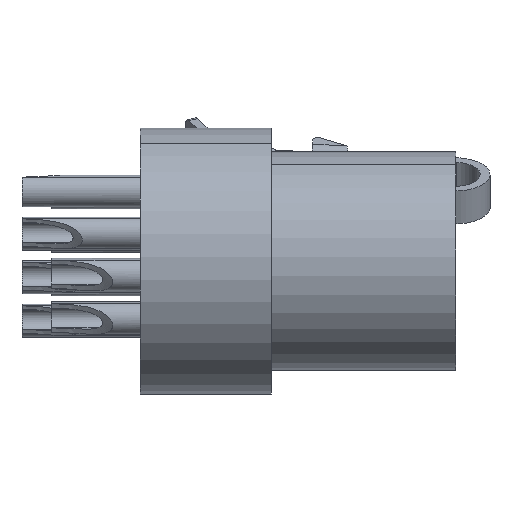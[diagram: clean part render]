
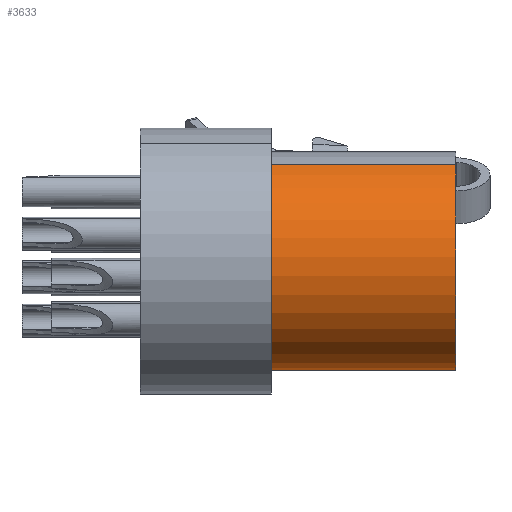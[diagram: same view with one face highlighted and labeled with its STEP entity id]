
A CAD part, front view. The second image highlights one B-rep face of the part: STEP entity #3633.
In plain terms, the highlighted cylindrical face has radius 2.819 mm (diameter 5.639 mm), a partial arc.
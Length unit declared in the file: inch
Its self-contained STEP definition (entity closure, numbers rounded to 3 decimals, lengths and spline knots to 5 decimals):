
#5 = VECTOR ( 'NONE', #3085, 39.37008 ) ;
#10 = LINE ( 'NONE', #3083, #5 ) ;
#2290 = VERTEX_POINT ( 'NONE', #7347 ) ;
#2291 = VERTEX_POINT ( 'NONE', #7340 ) ;
#2292 = VERTEX_POINT ( 'NONE', #7348 ) ;
#2297 = VERTEX_POINT ( 'NONE', #7336 ) ;
#3075 = CARTESIAN_POINT ( 'NONE',  ( 0.32, 0., -0.135 ) ) ;
#3076 = DIRECTION ( 'NONE',  ( 1., 0., 0. ) ) ;
#3077 = DIRECTION ( 'NONE',  ( 0., 0.469, -0.883 ) ) ;
#3083 = CARTESIAN_POINT ( 'NONE',  ( 0.133, 0.05211, -0.23301 ) ) ;
#3085 = DIRECTION ( 'NONE',  ( 1., 0., 0. ) ) ;
#3089 = CARTESIAN_POINT ( 'NONE',  ( 0.133, 0., -0.135 ) ) ;
#3090 = DIRECTION ( 'NONE',  ( 1., 0., 0. ) ) ;
#3091 = DIRECTION ( 'NONE',  ( 0., 0.469, -0.883 ) ) ;
#3101 = CARTESIAN_POINT ( 'NONE',  ( 0.133, -0.05211, -0.03699 ) ) ;
#3106 = DIRECTION ( 'NONE',  ( 1., 0., 0. ) ) ;
#3633 = ADVANCED_FACE ( 'NONE', ( #7771 ), #7891, .T. ) ;
#4159 = ORIENTED_EDGE ( 'NONE', *, *, #6491, .T. ) ;
#4227 = ORIENTED_EDGE ( 'NONE', *, *, #6498, .F. ) ;
#4270 = ORIENTED_EDGE ( 'NONE', *, *, #6489, .T. ) ;
#4459 = EDGE_LOOP ( 'NONE', ( #4227, #4159, #4270, #4518 ) ) ;
#4518 = ORIENTED_EDGE ( 'NONE', *, *, #6484, .F. ) ;
#6281 = AXIS2_PLACEMENT_3D ( 'NONE', #7280, #7615, #7513 ) ;
#6484 = EDGE_CURVE ( 'NONE', #2291, #2297, #8588, .T. ) ;
#6489 = EDGE_CURVE ( 'NONE', #2292, #2297, #10, .T. ) ;
#6491 = EDGE_CURVE ( 'NONE', #2290, #2292, #8593, .T. ) ;
#6498 = EDGE_CURVE ( 'NONE', #2290, #2291, #8607, .T. ) ;
#6993 = AXIS2_PLACEMENT_3D ( 'NONE', #3075, #3076, #3077 ) ;
#6994 = AXIS2_PLACEMENT_3D ( 'NONE', #3089, #3090, #3091 ) ;
#7280 = CARTESIAN_POINT ( 'NONE',  ( 0.133, 0., -0.135 ) ) ;
#7336 = CARTESIAN_POINT ( 'NONE',  ( 0.32, 0.05211, -0.23301 ) ) ;
#7340 = CARTESIAN_POINT ( 'NONE',  ( 0.32, -0.05211, -0.03699 ) ) ;
#7347 = CARTESIAN_POINT ( 'NONE',  ( 0.133, -0.05211, -0.03699 ) ) ;
#7348 = CARTESIAN_POINT ( 'NONE',  ( 0.133, 0.05211, -0.23301 ) ) ;
#7513 = DIRECTION ( 'NONE',  ( 0., 0.469, -0.883 ) ) ;
#7615 = DIRECTION ( 'NONE',  ( 1., 0., 0. ) ) ;
#7771 = FACE_OUTER_BOUND ( 'NONE', #4459, .T. ) ;
#7891 = CYLINDRICAL_SURFACE ( 'NONE', #6281, 0.111 ) ;
#8588 = CIRCLE ( 'NONE', #6993, 0.111 ) ;
#8593 = CIRCLE ( 'NONE', #6994, 0.111 ) ;
#8607 = LINE ( 'NONE', #3101, #8612 ) ;
#8612 = VECTOR ( 'NONE', #3106, 39.37008 ) ;
